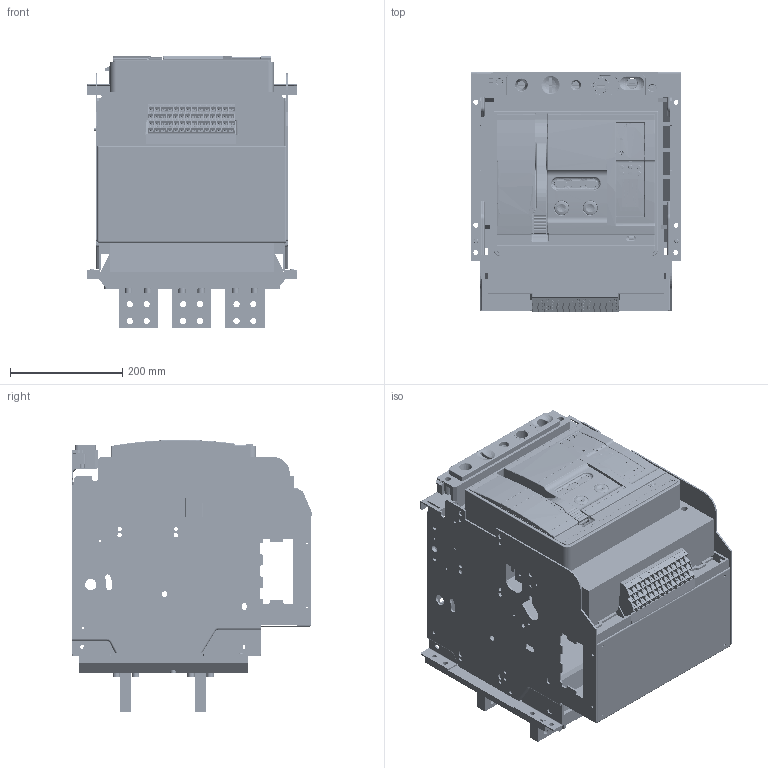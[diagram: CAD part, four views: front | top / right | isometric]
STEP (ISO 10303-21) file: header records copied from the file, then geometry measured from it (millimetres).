
FILE_DESCRIPTION(/* description */ (''),/* implementation_level */ '2;1');
FILE_NAME(/* name */ 'C:/Users/carlos.gonzalez/Documents/ADRIAN_TEMP_DRAWING/Ex9A25_3P_2500_DO_PB_Drawing.step',/* time_stamp */ '2021-10-14T12:35:14+02:00',/* author */ (''),/* organization */ (''),/* preprocessor_version */ 'ST-DEVELOPER v18.1',/* originating_system */ 'Autodesk Translation Framework v10.10.0.1391',/* authorisation */ '');
FILE_SCHEMA (('AUTOMOTIVE_DESIGN { 1 0 10303 214 3 1 1 }'));
Products named in the file (60): Ex9A25_3P_2500_DO; Auxiliary terminals; 5ZTD-558-695-2500_ASM; 5ZTD-558-712_ASM; 5ZTD-558-712_ASM_1; 5ZTD-558-712_ASM_2; 5ZTD-558-712_ASM_3; 5ZTD-558-712_ASM_4; 5ZTD-558-712_ASM_5; 5ZTD-558-712_ASM_6; 5ZTD-558-712_ASM_7; 5ZTD-558-712_ASM_8; 5ZTD-558-712_ASM_9; 5ZTD-558-712_ASM_10; 5ZTD-558-712_ASM_11; 5ZTD-558-712_ASM_12; 5ZTD-558-712_ASM_13; 8ZTD-024-837; 8ZTD-557-514; 8ZTD-557-515; 8ZTD-557-516; 8ZTD-557-517; M3_GB6170; M3X8_GB818; 8ZTD-141-185; 8ZTD-141-184; 8ZTD-860-699; 8ZTD-064-137; Main terminals; Bolts; GBT70_1-M8X20; Washers; GBT93-8; 8580A0412105; Internal components; 8ZTD_050_653; 8ZTD_300_532; 8ZTD_050_654; 8300A0101107-20170317; 8050A0306129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
Assembly tree (312 placements, depth 5):
  Ex9A25_3P_2500_DO
    Auxiliary terminals
      5ZTD-558-695-2500_ASM
        5ZTD-558-712_ASM
          8ZTD-024-837
          8ZTD-557-514
          8ZTD-557-515
          8ZTD-557-516
          8ZTD-557-517
          M3_GB6170  x4
          M3X8_GB818  x4
          8ZTD-141-185
          8ZTD-141-184
        5ZTD-558-712_ASM_1
          8ZTD-024-837
          8ZTD-557-514
          8ZTD-557-515
          8ZTD-557-516
          8ZTD-557-517
          M3_GB6170  x4
          M3X8_GB818  x4
          8ZTD-141-185
          8ZTD-141-184
        5ZTD-558-712_ASM_2
          8ZTD-024-837
          8ZTD-557-514
          8ZTD-557-515
          8ZTD-557-516
          8ZTD-557-517
          M3_GB6170  x4
          M3X8_GB818  x4
          8ZTD-141-185
          8ZTD-141-184
        5ZTD-558-712_ASM_3
          8ZTD-024-837
          8ZTD-557-514
          8ZTD-557-515
          8ZTD-557-516
          8ZTD-557-517
          M3_GB6170  x4
          M3X8_GB818  x4
          8ZTD-141-185
          8ZTD-141-184
        5ZTD-558-712_ASM_4
          8ZTD-024-837
          8ZTD-557-514
          8ZTD-557-515
          8ZTD-557-516
          8ZTD-557-517
          M3_GB6170  x4
          M3X8_GB818  x4
          8ZTD-141-185
          8ZTD-141-184
        5ZTD-558-712_ASM_5
          8ZTD-024-837
          8ZTD-557-514
          8ZTD-557-515
          8ZTD-557-516
          8ZTD-557-517
          M3_GB6170  x4
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Bounding box: 375.5 x 428.53 x 484.49 mm (x, y, z)
Volume: 12617659.7 mm3; surface area: 3192553.3 mm2
Topology: 289 solids, 341 shells, 21640 faces, 56508 edges, 36676 vertices
Faces by surface type: plane 16381, cylinder 2887, cone 1057, bspline 800, torus 386, sphere 129
Full cylindrical faces by diameter (mm): 2 x539, 2.1 x2, 2.246 x56, 2.5 x3, 2.6 x2, 3 x81, 3.2 x9, 3.4 x3, 3.5 x57, 4 x94, 4.3 x1, 4.5 x4, 5 x27, 5.008 x1, 5.5 x5, 6 x20, 6.1 x1, 6.5 x9, 6.647 x24, 7 x22, 8 x31, 8.3 x2, 8.5 x24, 9 x13, 10 x2, 10.5 x1, 11 x25, 11.5 x1, 12 x4, 12.5 x3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
Entity records: 243705 total; most frequent: CARTESIAN_POINT 92605, ORIENTED_EDGE 31416, DIRECTION 30107, EDGE_CURVE 15752, LINE 11283, VECTOR 11283, VERTEX_POINT 10232, AXIS2_PLACEMENT_3D 9412
